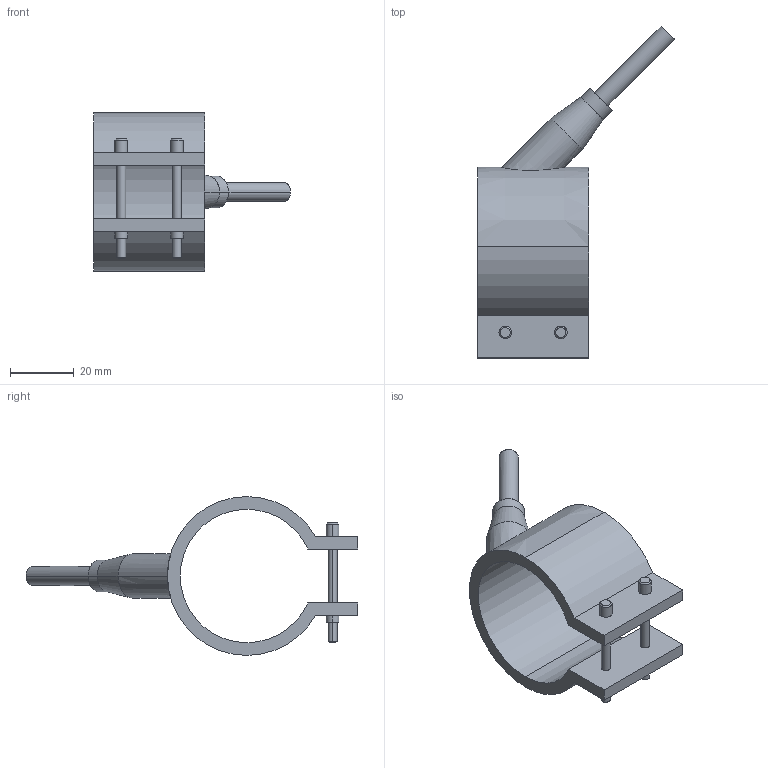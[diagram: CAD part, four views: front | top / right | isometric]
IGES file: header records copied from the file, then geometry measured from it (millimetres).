
Start section: START RECORD GO HERE.
Global section: file name: 29042035.igs; native system: DASSAULT SYSTEMES CATIA V5 R20 - www.3ds.com; preprocessor: CATIA Version 5 Release 20 ; author: Utente; organization: NB04-ASUS; date: 20210327.103830; units: millimetre
Bounding box: 62.05 x 104.55 x 50 mm (x, y, z)
Surface area: 14325.7 mm2 (no closed solid volume)
Topology: 0 solids, 0 shells, 54 faces, 246 edges, 246 vertices
Faces by surface type: revolution 38, plane 16
